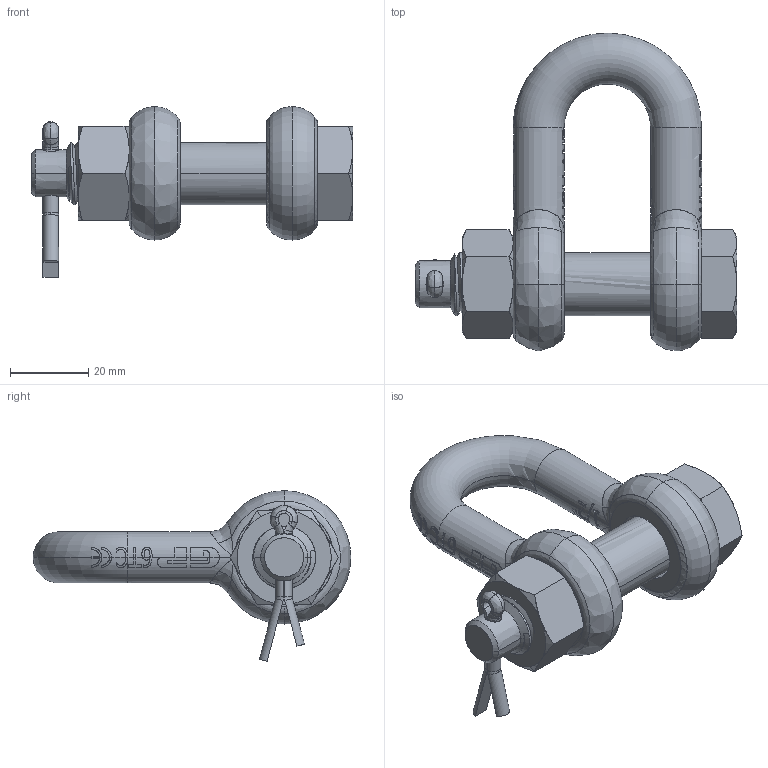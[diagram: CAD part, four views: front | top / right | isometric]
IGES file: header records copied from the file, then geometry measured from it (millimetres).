
Start section: START RECORD GO HERE.
Global section: file name: 2.igs; native system: Solidworks 2009      A Version 5 Release 17 ; preprocessor: Solidworks                 ; author: v.b.; organization: P4; date: 20090807.084247; units: millimetre
Bounding box: 82 x 81 x 43.49 mm (x, y, z)
Surface area: 19232.8 mm2 (no closed solid volume)
Topology: 0 solids, 0 shells, 653 faces, 4893 edges, 4885 vertices
Faces by surface type: bspline 239, plane 225, revolution 189
